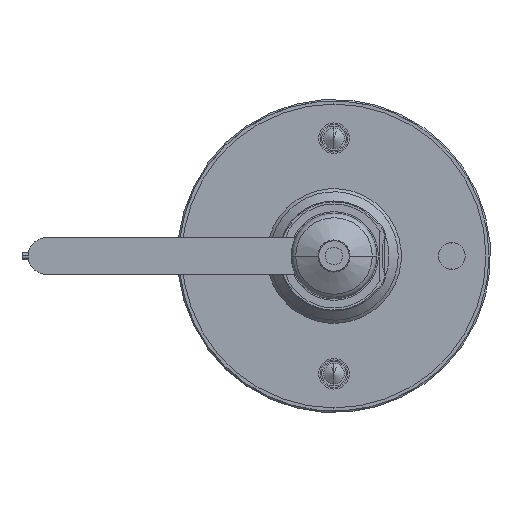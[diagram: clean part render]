
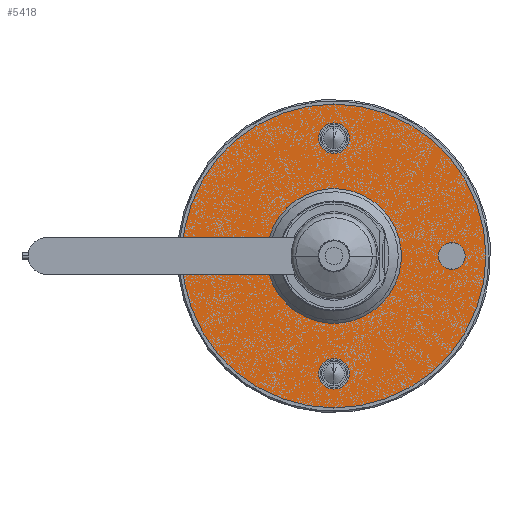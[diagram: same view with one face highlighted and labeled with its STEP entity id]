
A CAD part, front view. The second image highlights one B-rep face of the part: STEP entity #5418.
In plain terms, the highlighted planar face has unit normal (0, -1, 0) as drawn and (0, 0, -1) by its records, which use the part's own axes.
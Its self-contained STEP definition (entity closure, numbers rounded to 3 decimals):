
#547 = DIRECTION ( 'NONE',  ( 0., 0., 1. ) ) ;
#978 = EDGE_CURVE ( 'NONE', #11902, #5742, #11483, .T. ) ;
#1112 = EDGE_CURVE ( 'NONE', #26296, #20207, #8242, .T. ) ;
#1313 = CARTESIAN_POINT ( 'NONE',  ( -16.5, 0., 0. ) ) ;
#1482 = DIRECTION ( 'NONE',  ( -1., 0., 0. ) ) ;
#1676 = CARTESIAN_POINT ( 'NONE',  ( 0., 0., 0. ) ) ;
#1766 = ORIENTED_EDGE ( 'NONE', *, *, #10372, .T. ) ;
#2065 = EDGE_CURVE ( 'NONE', #5742, #11902, #23304, .T. ) ;
#2441 = EDGE_LOOP ( 'NONE', ( #7397, #10741 ) ) ;
#2567 = EDGE_CURVE ( 'NONE', #7018, #24157, #4692, .T. ) ;
#3271 = AXIS2_PLACEMENT_3D ( 'NONE', #7661, #547, #14104 ) ;
#3378 = AXIS2_PLACEMENT_3D ( 'NONE', #12936, #26817, #9164 ) ;
#4093 = DIRECTION ( 'NONE',  ( -1., 0., 0. ) ) ;
#4386 = FACE_BOUND ( 'NONE', #13021, .T. ) ;
#4388 = DIRECTION ( 'NONE',  ( -1., 0., 0. ) ) ;
#4434 = CARTESIAN_POINT ( 'NONE',  ( -43.5, 0., 0. ) ) ;
#4631 = VERTEX_POINT ( 'NONE', #4434 ) ;
#4692 = CIRCLE ( 'NONE', #8315, 16.5 ) ;
#4740 = DIRECTION ( 'NONE',  ( 0., 0., 1. ) ) ;
#4750 = AXIS2_PLACEMENT_3D ( 'NONE', #12513, #14490, #12357 ) ;
#5418 = ADVANCED_FACE ( 'NONE', ( #19374, #25760, #15091, #17369, #23902, #4386 ), #17233, .T. ) ;
#5732 = EDGE_CURVE ( 'NONE', #18311, #4631, #6924, .T. ) ;
#5742 = VERTEX_POINT ( 'NONE', #20375 ) ;
#6244 = EDGE_LOOP ( 'NONE', ( #17959, #18121 ) ) ;
#6261 = VERTEX_POINT ( 'NONE', #12433 ) ;
#6559 = AXIS2_PLACEMENT_3D ( 'NONE', #17914, #26581, #26837 ) ;
#6924 = CIRCLE ( 'NONE', #3271, 5. ) ;
#7018 = VERTEX_POINT ( 'NONE', #11059 ) ;
#7128 = EDGE_CURVE ( 'NONE', #20207, #26296, #23355, .T. ) ;
#7184 = CARTESIAN_POINT ( 'NONE',  ( 0., 38.5, 0. ) ) ;
#7397 = ORIENTED_EDGE ( 'NONE', *, *, #7128, .T. ) ;
#7623 = ORIENTED_EDGE ( 'NONE', *, *, #12560, .T. ) ;
#7661 = CARTESIAN_POINT ( 'NONE',  ( -38.5, 0., 0. ) ) ;
#7881 = VERTEX_POINT ( 'NONE', #15602 ) ;
#8242 = CIRCLE ( 'NONE', #16032, 4.4 ) ;
#8315 = AXIS2_PLACEMENT_3D ( 'NONE', #14596, #25839, #14754 ) ;
#8352 = AXIS2_PLACEMENT_3D ( 'NONE', #23834, #4740, #10736 ) ;
#8403 = ORIENTED_EDGE ( 'NONE', *, *, #5732, .T. ) ;
#9030 = CARTESIAN_POINT ( 'NONE',  ( 0., -38.5, 0. ) ) ;
#9164 = DIRECTION ( 'NONE',  ( -1., 0., 0. ) ) ;
#9360 = EDGE_CURVE ( 'NONE', #6261, #10063, #24780, .T. ) ;
#9898 = ORIENTED_EDGE ( 'NONE', *, *, #13434, .T. ) ;
#10063 = VERTEX_POINT ( 'NONE', #18746 ) ;
#10180 = CARTESIAN_POINT ( 'NONE',  ( 38.5, 0., 0. ) ) ;
#10318 = DIRECTION ( 'NONE',  ( 0., 0., 1. ) ) ;
#10372 = EDGE_CURVE ( 'NONE', #21726, #7881, #26175, .T. ) ;
#10463 = DIRECTION ( 'NONE',  ( -1., 0., 0. ) ) ;
#10628 = CIRCLE ( 'NONE', #18372, 5. ) ;
#10736 = DIRECTION ( 'NONE',  ( -1., 0., 0. ) ) ;
#10741 = ORIENTED_EDGE ( 'NONE', *, *, #1112, .T. ) ;
#11059 = CARTESIAN_POINT ( 'NONE',  ( 16.5, 0., 0. ) ) ;
#11483 = CIRCLE ( 'NONE', #18304, 4.4 ) ;
#11533 = CARTESIAN_POINT ( 'NONE',  ( 4.4, -38.5, 0. ) ) ;
#11733 = EDGE_CURVE ( 'NONE', #4631, #18311, #10628, .T. ) ;
#11902 = VERTEX_POINT ( 'NONE', #11533 ) ;
#12357 = DIRECTION ( 'NONE',  ( -1., 0., 0. ) ) ;
#12433 = CARTESIAN_POINT ( 'NONE',  ( 33.5, 0., 0. ) ) ;
#12513 = CARTESIAN_POINT ( 'NONE',  ( 0., 0., 0. ) ) ;
#12560 = EDGE_CURVE ( 'NONE', #24157, #7018, #18860, .T. ) ;
#12762 = CARTESIAN_POINT ( 'NONE',  ( -33.5, 0., 0. ) ) ;
#12822 = ORIENTED_EDGE ( 'NONE', *, *, #978, .T. ) ;
#12927 = ORIENTED_EDGE ( 'NONE', *, *, #2065, .T. ) ;
#12936 = CARTESIAN_POINT ( 'NONE',  ( 38.5, 0., 0. ) ) ;
#13021 = EDGE_LOOP ( 'NONE', ( #20720, #7623 ) ) ;
#13189 = DIRECTION ( 'NONE',  ( 0., 0., 1. ) ) ;
#13434 = EDGE_CURVE ( 'NONE', #7881, #21726, #25671, .T. ) ;
#13479 = DIRECTION ( 'NONE',  ( -1., 0., 0. ) ) ;
#14104 = DIRECTION ( 'NONE',  ( -1., 0., 0. ) ) ;
#14490 = DIRECTION ( 'NONE',  ( 0., 0., -1. ) ) ;
#14596 = CARTESIAN_POINT ( 'NONE',  ( 0., 0., 0. ) ) ;
#14754 = DIRECTION ( 'NONE',  ( 1., 0., 0. ) ) ;
#15091 = FACE_BOUND ( 'NONE', #2441, .T. ) ;
#15242 = DIRECTION ( 'NONE',  ( 0., 0., 1. ) ) ;
#15602 = CARTESIAN_POINT ( 'NONE',  ( 49.675, 0., 0. ) ) ;
#16032 = AXIS2_PLACEMENT_3D ( 'NONE', #7184, #22853, #27114 ) ;
#16500 = AXIS2_PLACEMENT_3D ( 'NONE', #9030, #13189, #13479 ) ;
#16557 = ORIENTED_EDGE ( 'NONE', *, *, #11733, .T. ) ;
#17233 = PLANE ( 'NONE',  #19225 ) ;
#17369 = FACE_BOUND ( 'NONE', #6244, .T. ) ;
#17802 = CARTESIAN_POINT ( 'NONE',  ( -38.5, 0., 0. ) ) ;
#17914 = CARTESIAN_POINT ( 'NONE',  ( 0., 0., 0. ) ) ;
#17959 = ORIENTED_EDGE ( 'NONE', *, *, #9360, .T. ) ;
#18121 = ORIENTED_EDGE ( 'NONE', *, *, #27758, .T. ) ;
#18276 = AXIS2_PLACEMENT_3D ( 'NONE', #10180, #10318, #10463 ) ;
#18304 = AXIS2_PLACEMENT_3D ( 'NONE', #28005, #27428, #1482 ) ;
#18311 = VERTEX_POINT ( 'NONE', #12762 ) ;
#18372 = AXIS2_PLACEMENT_3D ( 'NONE', #17802, #15242, #4388 ) ;
#18746 = CARTESIAN_POINT ( 'NONE',  ( 43.5, 0., 0. ) ) ;
#18860 = CIRCLE ( 'NONE', #6559, 16.5 ) ;
#19096 = DIRECTION ( 'NONE',  ( 0., 0., -1. ) ) ;
#19225 = AXIS2_PLACEMENT_3D ( 'NONE', #23608, #24182, #4093 ) ;
#19267 = CARTESIAN_POINT ( 'NONE',  ( -49.675, 0., 0. ) ) ;
#19374 = FACE_OUTER_BOUND ( 'NONE', #25154, .T. ) ;
#19394 = DIRECTION ( 'NONE',  ( -1., 0., 0. ) ) ;
#20100 = CIRCLE ( 'NONE', #18276, 5. ) ;
#20207 = VERTEX_POINT ( 'NONE', #21676 ) ;
#20375 = CARTESIAN_POINT ( 'NONE',  ( -4.4, -38.5, 0. ) ) ;
#20720 = ORIENTED_EDGE ( 'NONE', *, *, #2567, .T. ) ;
#21676 = CARTESIAN_POINT ( 'NONE',  ( -4.4, 38.5, 0. ) ) ;
#21726 = VERTEX_POINT ( 'NONE', #19267 ) ;
#22853 = DIRECTION ( 'NONE',  ( 0., 0., 1. ) ) ;
#23304 = CIRCLE ( 'NONE', #16500, 4.4 ) ;
#23355 = CIRCLE ( 'NONE', #8352, 4.4 ) ;
#23567 = CARTESIAN_POINT ( 'NONE',  ( 4.4, 38.5, 0. ) ) ;
#23608 = CARTESIAN_POINT ( 'NONE',  ( 16.5, 0., 0. ) ) ;
#23834 = CARTESIAN_POINT ( 'NONE',  ( 0., 38.5, 0. ) ) ;
#23902 = FACE_BOUND ( 'NONE', #25254, .T. ) ;
#24157 = VERTEX_POINT ( 'NONE', #1313 ) ;
#24182 = DIRECTION ( 'NONE',  ( 0., 0., -1. ) ) ;
#24780 = CIRCLE ( 'NONE', #3378, 5. ) ;
#25154 = EDGE_LOOP ( 'NONE', ( #9898, #1766 ) ) ;
#25159 = EDGE_LOOP ( 'NONE', ( #12927, #12822 ) ) ;
#25254 = EDGE_LOOP ( 'NONE', ( #16557, #8403 ) ) ;
#25671 = CIRCLE ( 'NONE', #4750, 49.675 ) ;
#25760 = FACE_BOUND ( 'NONE', #25159, .T. ) ;
#25839 = DIRECTION ( 'NONE',  ( 0., 0., 1. ) ) ;
#26175 = CIRCLE ( 'NONE', #27972, 49.675 ) ;
#26296 = VERTEX_POINT ( 'NONE', #23567 ) ;
#26581 = DIRECTION ( 'NONE',  ( 0., 0., 1. ) ) ;
#26817 = DIRECTION ( 'NONE',  ( 0., 0., 1. ) ) ;
#26837 = DIRECTION ( 'NONE',  ( 1., 0., 0. ) ) ;
#27114 = DIRECTION ( 'NONE',  ( -1., 0., 0. ) ) ;
#27428 = DIRECTION ( 'NONE',  ( 0., 0., 1. ) ) ;
#27758 = EDGE_CURVE ( 'NONE', #10063, #6261, #20100, .T. ) ;
#27972 = AXIS2_PLACEMENT_3D ( 'NONE', #1676, #19096, #19394 ) ;
#28005 = CARTESIAN_POINT ( 'NONE',  ( 0., -38.5, 0. ) ) ;
